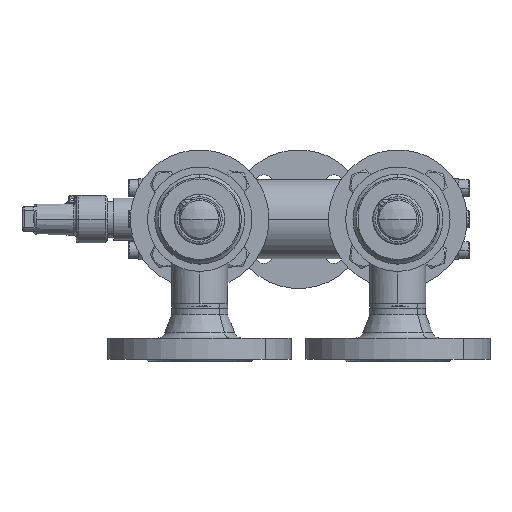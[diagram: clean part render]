
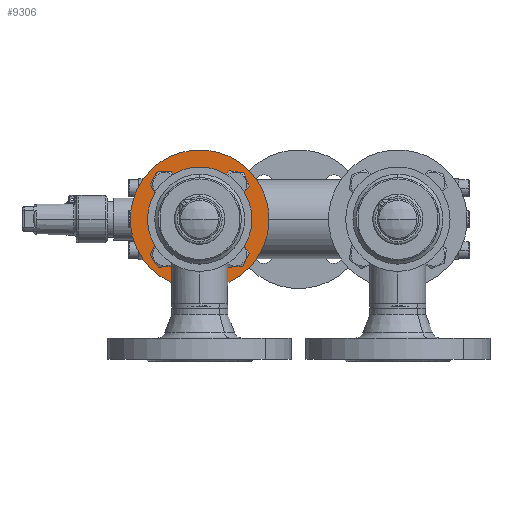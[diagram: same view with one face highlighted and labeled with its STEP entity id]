
A CAD part, left-side view. The second image highlights one B-rep face of the part: STEP entity #9306.
In plain terms, the highlighted planar face has unit normal (-1, 0, 0) as drawn and (0, 1, 0) by its records, which use the part's own axes.
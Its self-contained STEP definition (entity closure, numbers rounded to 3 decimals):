
#32814 = ORIENTED_EDGE ( 'NONE', *, *, #29006, .T. ) ;
#71 = CIRCLE ( 'NONE', #72, 7. ) ;
#72 = AXIS2_PLACEMENT_3D ( 'NONE', #73, #74, #75 ) ;
#73 = CARTESIAN_POINT ( 'NONE',  ( 0., 18., -37.5 ) ) ;
#74 = DIRECTION ( 'NONE',  ( 0., 1., 0. ) ) ;
#75 = DIRECTION ( 'NONE',  ( 0., 0., 1. ) ) ;
#402 = CIRCLE ( 'NONE', #403, 7. ) ;
#403 = AXIS2_PLACEMENT_3D ( 'NONE', #404, #405, #406 ) ;
#404 = CARTESIAN_POINT ( 'NONE',  ( 37.5, 18., 0. ) ) ;
#405 = DIRECTION ( 'NONE',  ( 0., 1., 0. ) ) ;
#406 = DIRECTION ( 'NONE',  ( -1., 0., 0. ) ) ;
#33262 = CIRCLE ( 'NONE', #33263, 7. ) ;
#33263 = AXIS2_PLACEMENT_3D ( 'NONE', #33264, #33265, #33266 ) ;
#33264 = CARTESIAN_POINT ( 'NONE',  ( 37.5, 18., 0. ) ) ;
#33265 = DIRECTION ( 'NONE',  ( 0., 1., 0. ) ) ;
#33266 = DIRECTION ( 'NONE',  ( -1., 0., 0. ) ) ;
#16944 = CARTESIAN_POINT ( 'NONE',  ( -30.5, 18., 0. ) ) ;
#17033 = ORIENTED_EDGE ( 'NONE', *, *, #16265, .F. ) ;
#34337 = EDGE_LOOP ( 'NONE', ( #32814, #31290 ) ) ;
#18115 = EDGE_LOOP ( 'NONE', ( #17033, #15190 ) ) ;
#34935 = VERTEX_POINT ( 'NONE', #16944 ) ;
#18616 = ORIENTED_EDGE ( 'NONE', *, *, #40596, .F. ) ;
#35048 = ORIENTED_EDGE ( 'NONE', *, *, #41571, .F. ) ;
#2329 = CARTESIAN_POINT ( 'NONE',  ( 7., 18., -37.5 ) ) ;
#2602 = CARTESIAN_POINT ( 'NONE',  ( 44.5, 18., 0. ) ) ;
#2830 = CIRCLE ( 'NONE', #2831, 7. ) ;
#2831 = AXIS2_PLACEMENT_3D ( 'NONE', #2832, #2833, #2859 ) ;
#2832 = CARTESIAN_POINT ( 'NONE',  ( -37.5, 18., 0. ) ) ;
#2833 = DIRECTION ( 'NONE',  ( 0., 1., 0. ) ) ;
#2859 = DIRECTION ( 'NONE',  ( 1., 0., 0. ) ) ;
#19684 = EDGE_CURVE ( 'NONE', #40130, #42451, #41868, .T. ) ;
#20338 = VERTEX_POINT ( 'NONE', #43207 ) ;
#20456 = ORIENTED_EDGE ( 'NONE', *, *, #19684, .F. ) ;
#20609 = VERTEX_POINT ( 'NONE', #43512 ) ;
#4316 = ORIENTED_EDGE ( 'NONE', *, *, #23095, .F. ) ;
#20802 = EDGE_CURVE ( 'NONE', #22624, #20338, #71, .T. ) ;
#21073 = EDGE_CURVE ( 'NONE', #22898, #20609, #402, .T. ) ;
#21524 = EDGE_LOOP ( 'NONE', ( #20456, #18616 ) ) ;
#5377 = EDGE_LOOP ( 'NONE', ( #4316, #22027 ) ) ;
#22027 = ORIENTED_EDGE ( 'NONE', *, *, #32325, .F. ) ;
#5850 = CIRCLE ( 'NONE', #5851, 7. ) ;
#5851 = AXIS2_PLACEMENT_3D ( 'NONE', #5852, #5879, #5880 ) ;
#5852 = CARTESIAN_POINT ( 'NONE',  ( 0., 18., -37.5 ) ) ;
#5874 = ORIENTED_EDGE ( 'NONE', *, *, #20802, .F. ) ;
#5879 = DIRECTION ( 'NONE',  ( 0., 1., 0. ) ) ;
#5880 = DIRECTION ( 'NONE',  ( 0., 0., 1. ) ) ;
#22624 = VERTEX_POINT ( 'NONE', #2329 ) ;
#22898 = VERTEX_POINT ( 'NONE', #2602 ) ;
#23095 = EDGE_CURVE ( 'NONE', #31670, #34935, #2830, .T. ) ;
#6960 = EDGE_CURVE ( 'NONE', #20338, #22624, #5850, .T. ) ;
#40130 = VERTEX_POINT ( 'NONE', #24639 ) ;
#7726 = ORIENTED_EDGE ( 'NONE', *, *, #6960, .F. ) ;
#40596 = EDGE_CURVE ( 'NONE', #42451, #40130, #25131, .T. ) ;
#24639 = CARTESIAN_POINT ( 'NONE',  ( -7., 18., 37.5 ) ) ;
#41108 = VERTEX_POINT ( 'NONE', #26007 ) ;
#25131 = CIRCLE ( 'NONE', #25132, 7. ) ;
#25132 = AXIS2_PLACEMENT_3D ( 'NONE', #25133, #25134, #25135 ) ;
#25133 = CARTESIAN_POINT ( 'NONE',  ( 0., 18., 37.5 ) ) ;
#25134 = DIRECTION ( 'NONE',  ( 0., 1., 0. ) ) ;
#25135 = DIRECTION ( 'NONE',  ( 0., 0., -1. ) ) ;
#8794 = EDGE_LOOP ( 'NONE', ( #7726, #5874 ) ) ;
#8803 = FACE_BOUND ( 'NONE', #8794, .T. ) ;
#8804 = FACE_BOUND ( 'NONE', #5377, .T. ) ;
#8805 = FACE_BOUND ( 'NONE', #21524, .T. ) ;
#8806 = FACE_BOUND ( 'NONE', #18115, .T. ) ;
#8807 = FACE_BOUND ( 'NONE', #14684, .T. ) ;
#8808 = FACE_OUTER_BOUND ( 'NONE', #34337, .T. ) ;
#8809 = PLANE ( 'NONE',  #8810 ) ;
#8810 = AXIS2_PLACEMENT_3D ( 'NONE', #8811, #8812, #8836 ) ;
#8811 = CARTESIAN_POINT ( 'NONE',  ( 52.5, 18., 0. ) ) ;
#8812 = DIRECTION ( 'NONE',  ( 0., -1., 0. ) ) ;
#41571 = EDGE_CURVE ( 'NONE', #43404, #41108, #26819, .T. ) ;
#8836 = DIRECTION ( 'NONE',  ( 1., 0., 0. ) ) ;
#41868 = CIRCLE ( 'NONE', #41869, 7. ) ;
#41869 = AXIS2_PLACEMENT_3D ( 'NONE', #41870, #41871, #41872 ) ;
#41870 = CARTESIAN_POINT ( 'NONE',  ( 0., 18., 37.5 ) ) ;
#41871 = DIRECTION ( 'NONE',  ( 0., 1., 0. ) ) ;
#41872 = DIRECTION ( 'NONE',  ( 0., 0., -1. ) ) ;
#9306 = ADVANCED_FACE ( 'NONE', ( #8803, #8804, #8805, #8806, #8807, #8808 ), #8809, .F. ) ;
#26007 = CARTESIAN_POINT ( 'NONE',  ( -22.685, 18., 0. ) ) ;
#42451 = VERTEX_POINT ( 'NONE', #27907 ) ;
#9937 = CIRCLE ( 'NONE', #9938, 22.685 ) ;
#9938 = AXIS2_PLACEMENT_3D ( 'NONE', #9939, #9940, #9965 ) ;
#9939 = CARTESIAN_POINT ( 'NONE',  ( 0., 18., 0. ) ) ;
#9940 = DIRECTION ( 'NONE',  ( 0., 1., 0. ) ) ;
#9965 = DIRECTION ( 'NONE',  ( -1., 0., 0. ) ) ;
#10114 = EDGE_CURVE ( 'NONE', #41108, #43404, #9937, .T. ) ;
#10399 = CARTESIAN_POINT ( 'NONE',  ( -52.5, 18., 0. ) ) ;
#26819 = CIRCLE ( 'NONE', #26820, 22.685 ) ;
#26820 = AXIS2_PLACEMENT_3D ( 'NONE', #26821, #26822, #26823 ) ;
#26821 = CARTESIAN_POINT ( 'NONE',  ( 0., 18., 0. ) ) ;
#26822 = DIRECTION ( 'NONE',  ( 0., 1., 0. ) ) ;
#26823 = DIRECTION ( 'NONE',  ( -1., 0., 0. ) ) ;
#43207 = CARTESIAN_POINT ( 'NONE',  ( -7., 18., -37.5 ) ) ;
#43404 = VERTEX_POINT ( 'NONE', #31713 ) ;
#43512 = CARTESIAN_POINT ( 'NONE',  ( 30.5, 18., 0. ) ) ;
#11403 = CIRCLE ( 'NONE', #11404, 52.5 ) ;
#11404 = AXIS2_PLACEMENT_3D ( 'NONE', #11405, #11406, #11407 ) ;
#11405 = CARTESIAN_POINT ( 'NONE',  ( 0., 18., 0. ) ) ;
#11406 = DIRECTION ( 'NONE',  ( 0., 1., 0. ) ) ;
#11407 = DIRECTION ( 'NONE',  ( -1., 0., 0. ) ) ;
#27907 = CARTESIAN_POINT ( 'NONE',  ( 7., 18., 37.5 ) ) ;
#28355 = VERTEX_POINT ( 'NONE', #10399 ) ;
#12128 = CIRCLE ( 'NONE', #12129, 52.5 ) ;
#12129 = AXIS2_PLACEMENT_3D ( 'NONE', #12130, #12131, #12132 ) ;
#12130 = CARTESIAN_POINT ( 'NONE',  ( 0., 18., 0. ) ) ;
#12131 = DIRECTION ( 'NONE',  ( 0., 1., 0. ) ) ;
#12132 = DIRECTION ( 'NONE',  ( -1., 0., 0. ) ) ;
#29006 = EDGE_CURVE ( 'NONE', #28355, #31615, #11403, .T. ) ;
#13633 = ORIENTED_EDGE ( 'NONE', *, *, #10114, .F. ) ;
#13697 = CARTESIAN_POINT ( 'NONE',  ( 52.5, 18., 0. ) ) ;
#13732 = CARTESIAN_POINT ( 'NONE',  ( -44.5, 18., 0. ) ) ;
#30202 = EDGE_CURVE ( 'NONE', #31615, #28355, #12128, .T. ) ;
#14320 = CIRCLE ( 'NONE', #14321, 7. ) ;
#14321 = AXIS2_PLACEMENT_3D ( 'NONE', #14322, #14323, #14324 ) ;
#14322 = CARTESIAN_POINT ( 'NONE',  ( -37.5, 18., 0. ) ) ;
#14323 = DIRECTION ( 'NONE',  ( 0., 1., 0. ) ) ;
#14324 = DIRECTION ( 'NONE',  ( 1., 0., 0. ) ) ;
#14684 = EDGE_LOOP ( 'NONE', ( #13633, #35048 ) ) ;
#31290 = ORIENTED_EDGE ( 'NONE', *, *, #30202, .T. ) ;
#15190 = ORIENTED_EDGE ( 'NONE', *, *, #21073, .F. ) ;
#31615 = VERTEX_POINT ( 'NONE', #13697 ) ;
#31670 = VERTEX_POINT ( 'NONE', #13732 ) ;
#31713 = CARTESIAN_POINT ( 'NONE',  ( 22.685, 18., 0. ) ) ;
#32325 = EDGE_CURVE ( 'NONE', #34935, #31670, #14320, .T. ) ;
#16265 = EDGE_CURVE ( 'NONE', #20609, #22898, #33262, .T. ) ;
